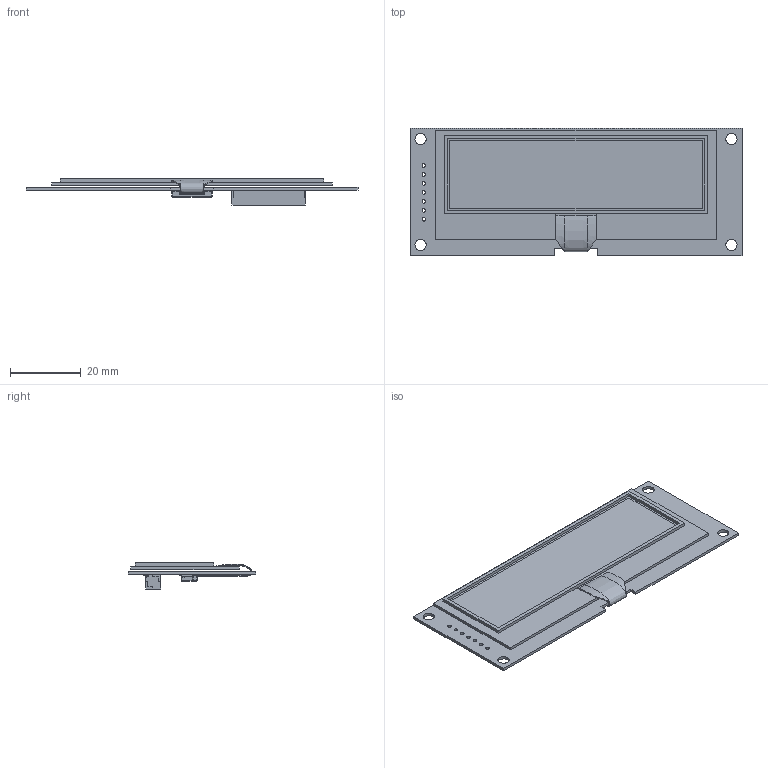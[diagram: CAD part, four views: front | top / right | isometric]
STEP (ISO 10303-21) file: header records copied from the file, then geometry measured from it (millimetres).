
FILE_DESCRIPTION((''),'2;1');
FILE_NAME('GE256X64B-7933B-N11_ASM','2019-07-08T',('samx'),(''),'PRO/ENGINEER BY PARAMETRIC TECHNOLOGY CORPORATION, 2010280','PRO/ENGINEER BY PARAMETRIC TECHNOLOGY CORPORATION, 2010280','');
FILE_SCHEMA(('CONFIG_CONTROL_DESIGN'));
Length unit declared in the file: millimetre
Products named in the file (4): GE256X64B-7032B; TYCO_FCC_1-1734592-2; JST_BM14B-GHS-TBT; GE256X64B-7933B-N11_ASM
Assembly tree (3 placements, depth 2):
  GE256X64B-7933B-N11_ASM
    GE256X64B-7032B
    TYCO_FCC_1-1734592-2
    JST_BM14B-GHS-TBT
Bounding box: 94 x 36 x 7.4 mm (x, y, z)
Volume: 5430.5 mm3; surface area: 14045 mm2
Topology: 4 solids, 4 shells, 600 faces, 1655 edges, 1088 vertices
Faces by surface type: plane 514, cylinder 72, sphere 8, extrusion 6
Entity records: 19118 total; most frequent: CARTESIAN_POINT 3601, ORIENTED_EDGE 3288, DIRECTION 2995, EDGE_CURVE 1644, VECTOR 1495, LINE 1489, VERTEX_POINT 1066, AXIS2_PLACEMENT_3D 750
